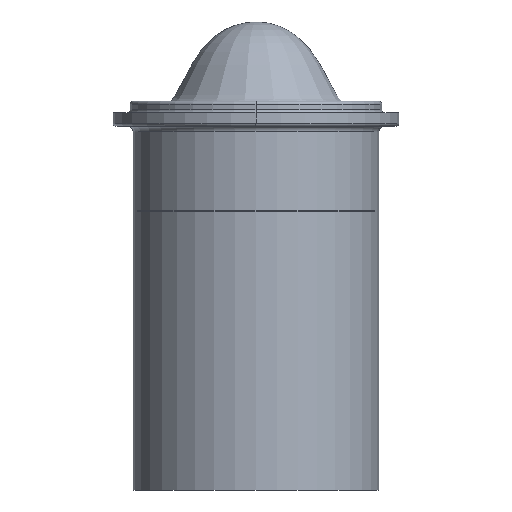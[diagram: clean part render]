
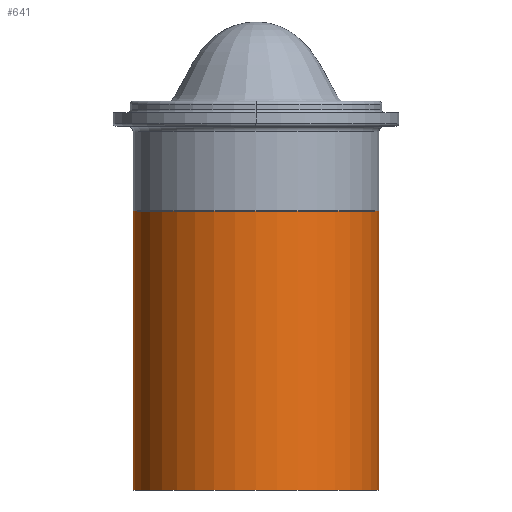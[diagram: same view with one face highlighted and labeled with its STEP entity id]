
A CAD part, front view. The second image highlights one B-rep face of the part: STEP entity #641.
In plain terms, the highlighted cylindrical face has radius 21.5 mm (diameter 43 mm), a partial arc.
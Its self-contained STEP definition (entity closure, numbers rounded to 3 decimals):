
#571=CARTESIAN_POINT('',(0.,0.,-75.529));
#572=DIRECTION('',(0.,0.,-1.));
#573=DIRECTION('',(1.,0.,0.));
#574=AXIS2_PLACEMENT_3D('',#571,#572,#573);
#581=DIRECTION('',(0.,0.,-1.));
#582=VECTOR('',#581,48.9);
#583=CARTESIAN_POINT('',(-21.5,0.,-26.629));
#584=LINE('',#583,#582);
#585=CARTESIAN_POINT('',(0.,0.,-26.629));
#586=DIRECTION('',(0.,0.,1.));
#587=DIRECTION('',(-1.,0.,0.));
#588=AXIS2_PLACEMENT_3D('',#585,#586,#587);
#590=DIRECTION('',(0.,0.,-1.));
#591=VECTOR('',#590,48.9);
#592=CARTESIAN_POINT('',(21.5,0.,-26.629));
#593=LINE('',#592,#591);
#594=CARTESIAN_POINT('',(-21.5,0.,-75.529));
#595=CARTESIAN_POINT('',(21.5,0.,-75.529));
#596=VERTEX_POINT('',#594);
#597=VERTEX_POINT('',#595);
#598=CARTESIAN_POINT('',(21.5,0.,-26.629));
#599=CARTESIAN_POINT('',(-21.5,0.,-26.629));
#600=VERTEX_POINT('',#598);
#601=VERTEX_POINT('',#599);
#629=CARTESIAN_POINT('',(0.,0.,-16.529));
#630=DIRECTION('',(0.,0.,-1.));
#631=DIRECTION('',(-1.,0.,0.));
#632=AXIS2_PLACEMENT_3D('',#629,#630,#631);
#633=CYLINDRICAL_SURFACE('',#632,21.5);
#635=ORIENTED_EDGE('',*,*,#634,.T.);
#636=ORIENTED_EDGE('',*,*,#624,.T.);
#637=ORIENTED_EDGE('',*,*,#609,.T.);
#638=ORIENTED_EDGE('',*,*,#621,.F.);
#639=EDGE_LOOP('',(#635,#636,#637,#638));
#640=FACE_OUTER_BOUND('',#639,.F.);
#641=ADVANCED_FACE('',(#640),#633,.T.);
#575=CIRCLE('',#574,21.5);
#589=CIRCLE('',#588,21.5);
#609=EDGE_CURVE('',#597,#596,#575,.T.);
#621=EDGE_CURVE('',#601,#596,#584,.T.);
#624=EDGE_CURVE('',#600,#597,#593,.T.);
#634=EDGE_CURVE('',#601,#600,#589,.T.);
